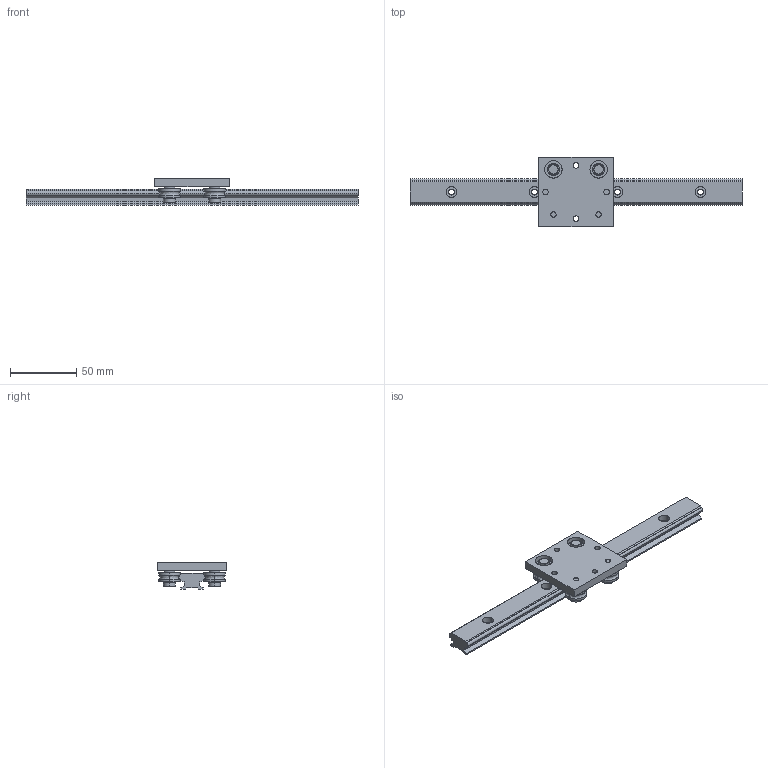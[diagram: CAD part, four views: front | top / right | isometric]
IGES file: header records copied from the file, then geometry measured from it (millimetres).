
Global section: file name: No Iges File Name specified; native system: AutoDesk Inventor R11.0; preprocessor: AutoDesk Inventor Iges Exporter R11.0; author: No Author specified; organization: No Organization specified; date: 20130903.095434; units: millimetre
Bounding box: 250 x 52 x 20 mm (x, y, z)
Surface area: 29085.5 mm2 (no closed solid volume)
Topology: 0 solids, 0 shells, 185 faces, 1196 edges, 1196 vertices
Faces by surface type: bspline 185
